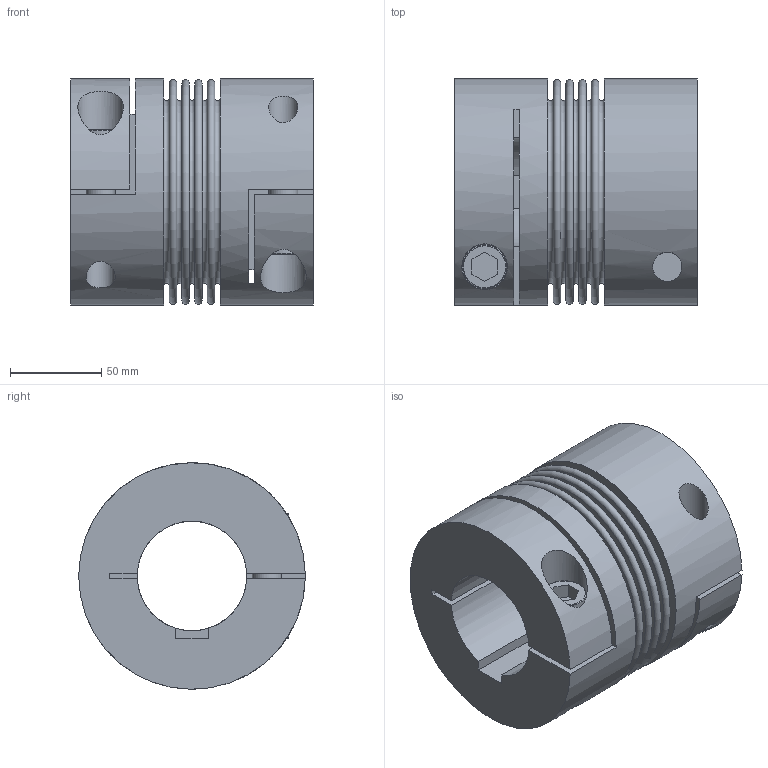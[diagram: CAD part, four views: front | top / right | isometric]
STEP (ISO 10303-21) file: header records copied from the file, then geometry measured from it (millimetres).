
FILE_DESCRIPTION(/* description */ ('STEP AP203'),/* implementation_level */ '2;1');
FILE_NAME(/* name */ 'C:\Diequa Files\DieQua Coupling\Website Step Files\BC.500.133.#.#.stp',/* time_stamp */ '2020-02-17T09:46:36-06:00',/* author */ ('DiequaCAD'),/* organization */ (''),/* preprocessor_version */ 'ST-DEVELOPER v18',/* originating_system */ 'Autodesk Inventor 2020',/* authorisation */ ' ');
FILE_SCHEMA (('AUTOMOTIVE_DESIGN { 1 0 10303 214 3 1 1 }'));
Length unit declared in the file: millimetre
Products named in the file (1): BC.500.133.#.#
Bounding box: 133 x 124 x 124 mm (x, y, z)
Volume: 1098186.4 mm3; surface area: 160371.4 mm2
Topology: 1 solids, 1 shells, 79 faces, 214 edges, 152 vertices
Faces by surface type: plane 55, cylinder 13, torus 11
Full cylindrical faces by diameter (mm): 16 x4, 24 x2, 25 x2, 60 x1, 124 x2
Entity records: 2774 total; most frequent: CARTESIAN_POINT 603, DIRECTION 467, ORIENTED_EDGE 428, EDGE_CURVE 214, AXIS2_PLACEMENT_3D 178, VERTEX_POINT 152, LINE 111, VECTOR 111
